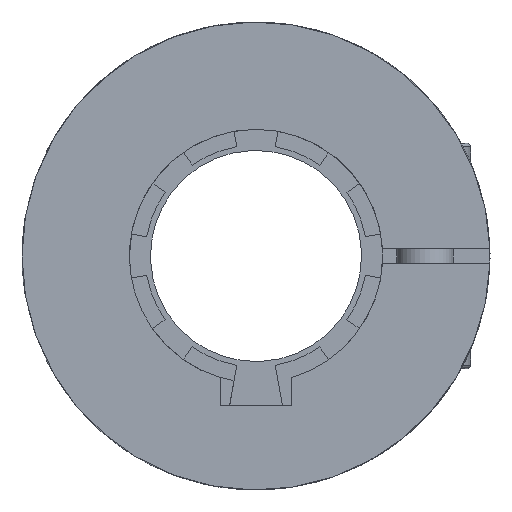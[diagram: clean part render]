
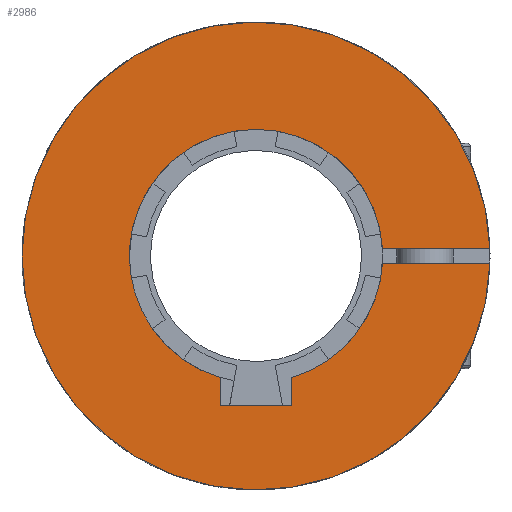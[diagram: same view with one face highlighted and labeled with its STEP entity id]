
A CAD part, left-side view. The second image highlights one B-rep face of the part: STEP entity #2986.
In plain terms, the highlighted planar face has unit normal (-1, 0, 0).
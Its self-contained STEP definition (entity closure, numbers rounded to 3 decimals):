
#135=PLANE('',#3384);
#304=FACE_OUTER_BOUND('',#475,.T.);
#475=EDGE_LOOP('',(#2689,#2690,#2691,#2692,#2693,#2694,#2695,#2696,#2697));
#702=LINE('',#5073,#971);
#705=LINE('',#5079,#974);
#706=LINE('',#5081,#975);
#721=LINE('',#5131,#990);
#739=LINE('',#5293,#1008);
#971=VECTOR('',#4086,1.);
#974=VECTOR('',#4091,1.);
#975=VECTOR('',#4094,1.);
#990=VECTOR('',#4147,1000.);
#1008=VECTOR('',#4235,1000.);
#1154=CIRCLE('',#3313,18.);
#1157=CIRCLE('',#3316,18.);
#1197=CIRCLE('',#3378,33.25);
#1198=CIRCLE('',#3379,33.25);
#1407=VERTEX_POINT('',#5023);
#1408=VERTEX_POINT('',#5025);
#1413=VERTEX_POINT('',#5035);
#1414=VERTEX_POINT('',#5037);
#1427=VERTEX_POINT('',#5071);
#1429=VERTEX_POINT('',#5077);
#1445=VERTEX_POINT('',#5130);
#1473=VERTEX_POINT('',#5274);
#1474=VERTEX_POINT('',#5276);
#1798=EDGE_CURVE('',#1408,#1407,#1154,.T.);
#1804=EDGE_CURVE('',#1414,#1413,#1157,.T.);
#1822=EDGE_CURVE('',#1407,#1427,#702,.T.);
#1825=EDGE_CURVE('',#1427,#1429,#705,.T.);
#1826=EDGE_CURVE('',#1429,#1414,#706,.T.);
#1851=EDGE_CURVE('',#1408,#1445,#721,.T.);
#1889=EDGE_CURVE('',#1474,#1473,#1197,.T.);
#1891=EDGE_CURVE('',#1473,#1445,#1198,.T.);
#1899=EDGE_CURVE('',#1474,#1413,#739,.T.);
#2689=ORIENTED_EDGE('',*,*,#1804,.T.);
#2690=ORIENTED_EDGE('',*,*,#1899,.F.);
#2691=ORIENTED_EDGE('',*,*,#1889,.T.);
#2692=ORIENTED_EDGE('',*,*,#1891,.T.);
#2693=ORIENTED_EDGE('',*,*,#1851,.F.);
#2694=ORIENTED_EDGE('',*,*,#1798,.T.);
#2695=ORIENTED_EDGE('',*,*,#1822,.T.);
#2696=ORIENTED_EDGE('',*,*,#1825,.T.);
#2697=ORIENTED_EDGE('',*,*,#1826,.T.);
#2986=ADVANCED_FACE('',(#304),#135,.F.);
#3313=AXIS2_PLACEMENT_3D('',#5026,#4043,#4044);
#3316=AXIS2_PLACEMENT_3D('',#5038,#4052,#4053);
#3378=AXIS2_PLACEMENT_3D('',#5277,#4217,#4218);
#3379=AXIS2_PLACEMENT_3D('',#5279,#4220,#4221);
#3384=AXIS2_PLACEMENT_3D('',#5294,#4236,#4237);
#4043=DIRECTION('center_axis',(1.,0.,0.));
#4044=DIRECTION('ref_axis',(0.,0.,-1.));
#4052=DIRECTION('center_axis',(1.,0.,0.));
#4053=DIRECTION('ref_axis',(0.,0.,-1.));
#4086=DIRECTION('',(0.,0.,-1.));
#4091=DIRECTION('',(0.,1.,0.));
#4094=DIRECTION('',(0.,0.,1.));
#4147=DIRECTION('',(0.,-1.,0.));
#4217=DIRECTION('center_axis',(-1.,0.,0.));
#4218=DIRECTION('ref_axis',(0.,-1.,0.));
#4220=DIRECTION('center_axis',(-1.,0.,0.));
#4221=DIRECTION('ref_axis',(0.,-1.,0.));
#4235=DIRECTION('',(0.,1.,0.));
#4236=DIRECTION('center_axis',(1.,0.,0.));
#4237=DIRECTION('ref_axis',(0.,0.,-1.));
#5023=CARTESIAN_POINT('',(0.,-5.,-17.292));
#5025=CARTESIAN_POINT('',(0.,-17.972,-1.));
#5026=CARTESIAN_POINT('Origin',(0.,0.,0.));
#5035=CARTESIAN_POINT('',(0.,-17.972,1.));
#5037=CARTESIAN_POINT('',(0.,5.,-17.292));
#5038=CARTESIAN_POINT('Origin',(0.,0.,0.));
#5071=CARTESIAN_POINT('',(0.,-5.,-21.3));
#5073=CARTESIAN_POINT('',(0.,-5.,11.3));
#5077=CARTESIAN_POINT('',(0.,5.,-21.3));
#5079=CARTESIAN_POINT('',(0.,0.,-21.3));
#5081=CARTESIAN_POINT('',(0.,5.,11.3));
#5130=CARTESIAN_POINT('',(0.,-33.235,-1.));
#5131=CARTESIAN_POINT('',(0.,15.059,-1.));
#5274=CARTESIAN_POINT('',(0.,33.25,0.));
#5276=CARTESIAN_POINT('',(0.,-33.235,1.));
#5277=CARTESIAN_POINT('Origin',(0.,0.,0.));
#5279=CARTESIAN_POINT('Origin',(0.,0.,0.));
#5293=CARTESIAN_POINT('',(0.,15.059,1.));
#5294=CARTESIAN_POINT('Origin',(0.,0.,33.25));
